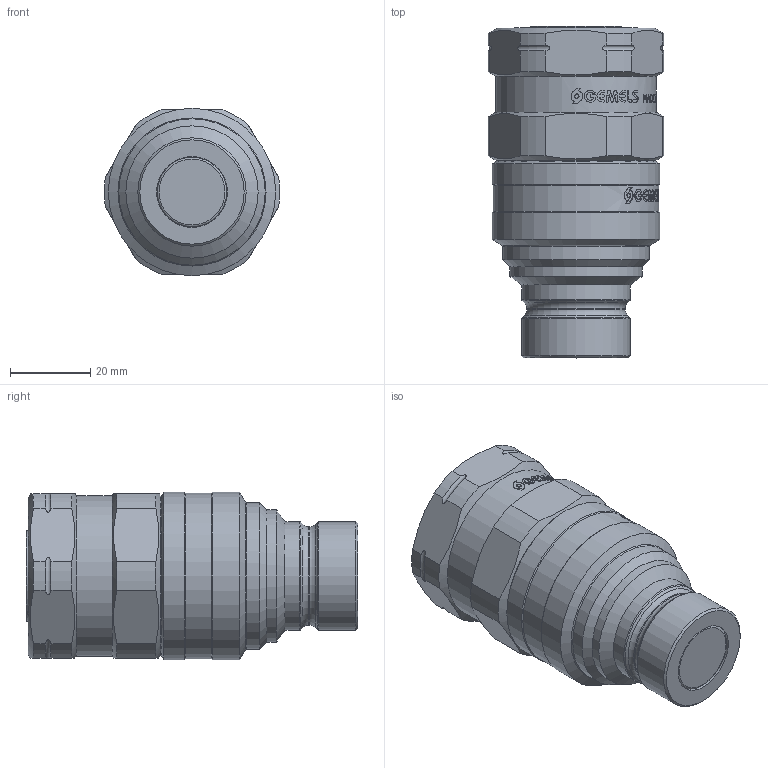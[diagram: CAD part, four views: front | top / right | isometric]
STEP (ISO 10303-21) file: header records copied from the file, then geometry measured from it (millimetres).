
FILE_DESCRIPTION(/* description */ (''),/* implementation_level */ '2;1');
FILE_NAME(/* name */ 'NC05N030004.stp',/* time_stamp */ '2024-08-26T14:13:23+02:00',/* author */ ('thomas.belotti'),/* organization */ (''),/* preprocessor_version */ 'ST-DEVELOPER v20',/* originating_system */ 'Autodesk Inventor 2024',/* authorisation */ '');
FILE_SCHEMA (('AUTOMOTIVE_DESIGN { 1 0 10303 214 3 1 1 }'));
Length unit declared in the file: millimetre
Products named in the file (1): Parte7
Bounding box: 43.73 x 82.7 x 41.7 mm (x, y, z)
Volume: 87967.9 mm3; surface area: 14893 mm2
Topology: 1 solids, 3 shells, 1059 faces, 3015 edges, 2004 vertices
Faces by surface type: bspline 684, plane 268, cylinder 78, cone 17, torus 12
Full cylindrical faces by diameter (mm): 17.65 x1, 18 x1, 19 x1, 22.5 x1, 24.5 x1, 27 x2, 32.95 x1, 36.5 x1, 37 x1, 37.3 x1, 40 x1, 41.2 x1, 41.7 x2
Entity records: 45749 total; most frequent: CARTESIAN_POINT 21608, ORIENTED_EDGE 6030, EDGE_CURVE 3015, DIRECTION 2697, VERTEX_POINT 2004, B_SPLINE_CURVE_WITH_KNOTS 1426, LINE 1177, VECTOR 1177
